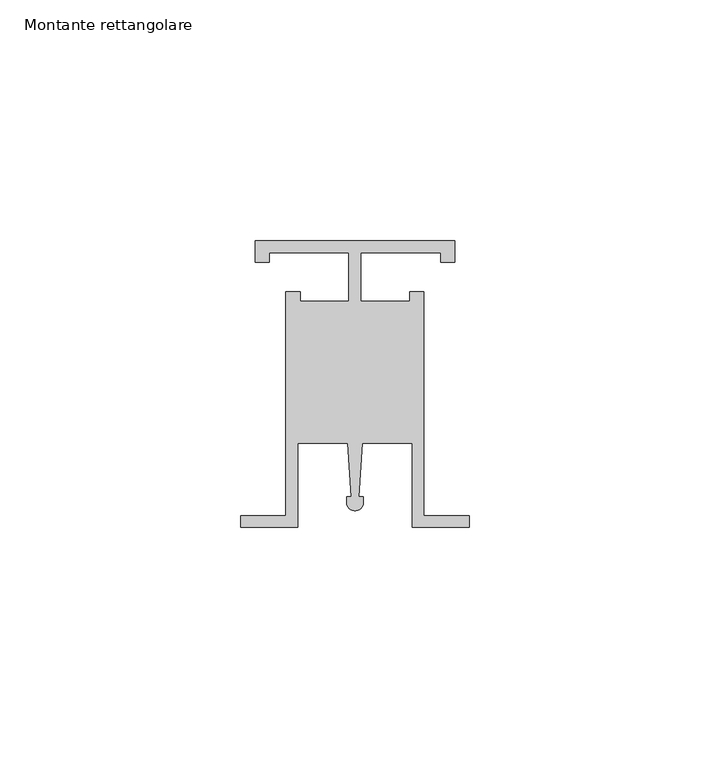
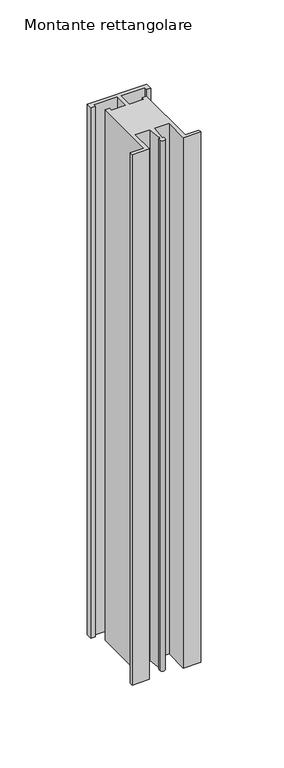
"""IFC4 building model written with IfcOpenShell, lengths in millimetres: member geometry, Montante rettangolare : Verde Profilo's Uprights."""

from ifc_helpers import new_model, si_unit, point, frame, frame_2d, origin, place, context, project, spatial, polyline, circle_curve, trimmed, segment, composite_curve, outline, extrude, source, transform, mapped, element, save


def montante_rettangolare_6998f733(model_context):
    return source(origin(), model_context, "Body", "SweptSolid", [
        extrude(outline(composite_curve([segment(polyline([(-44.5191881, 0.0), (-3.0, 0.0), (-3.0, -4.4643434), (-5.9763281, -4.4643434), (-5.9763281, -2.4801246), (-22.5192241, -2.4801246), (-22.5192241, -12.5992217), (-12.4008018, -12.5992217), (-12.4008018, -10.6150029), (-9.4244736, -10.6150029), (-9.4244736, -57.1992491), (0.0, -57.1992491), (0.0, -59.5229914), (-11.9045983, -59.5229914), (-11.9045983, -42.1200913), (-22.2878429, -42.1200913), (-23.0155567, -53.2310496), (-22.0219337, -53.2310496), (-22.0219337, -54.4070013)]), True, "CONTINUOUS"), segment(trimmed(circle_curve(frame_2d((-23.7595941, -54.4070013)), 1.7376604), [point((-22.0219337, -54.4070013))], [point((-25.4972545, -54.4070013))], False, "CARTESIAN"), True, "CONTINUOUS"), segment(polyline([(-25.4972545, -54.4070013), (-25.4972545, -53.2310496), (-24.5036314, -53.2310496), (-25.2313452, -42.1200913), (-35.6145898, -42.1200913), (-35.6145898, -59.5229914), (-47.5191881, -59.5229914), (-47.5191881, -57.1992491), (-38.0947145, -57.1992491), (-38.0947145, -10.6150029), (-35.1183863, -10.6150029), (-35.1183863, -12.5992217), (-24.999964, -12.5992217), (-24.999964, -2.4801246), (-41.54286, -2.4801246), (-41.54286, -4.4643434), (-44.5191881, -4.4643434), (-44.5191881, 0.0)]), True, "CONTINUOUS")], self_intersect=False)), frame((0.0, 0.0, -390.3770182), z_axis=(0.0, 0.0, 1.0), x_axis=(1.0, 0.0, 0.0)), (0.0, 0.0, 1.0), 390.3770182),
    ])


if __name__ == "__main__":
    model = new_model("IFC4")
    model_context = context("Model", 3, world=origin())
    ifc_project = project(units=[si_unit("LENGTHUNIT", "METRE", prefix="MILLI")], contexts=[model_context])
    site = spatial("IfcSite", under=ifc_project)
    building = spatial("IfcBuilding", under=site)
    placement = place(None, origin())
    montante_rettangolare_shape = montante_rettangolare_6998f733(model_context)
    element("IfcMember", 1, ObjectType="Montante rettangolare : Verde Profilo's Uprights", at=placement, inside=building, context=model_context, shape_type="MappedRepresentation", body=[
        mapped(montante_rettangolare_shape, transform((0.0, 0.0, 0.0), x_axis=(1.0, 0.0, 0.0), y_axis=(0.0, 1.0, 0.0), z_axis=(0.0, 0.0, 1.0))),
    ])
    save(model, "model.ifc")
